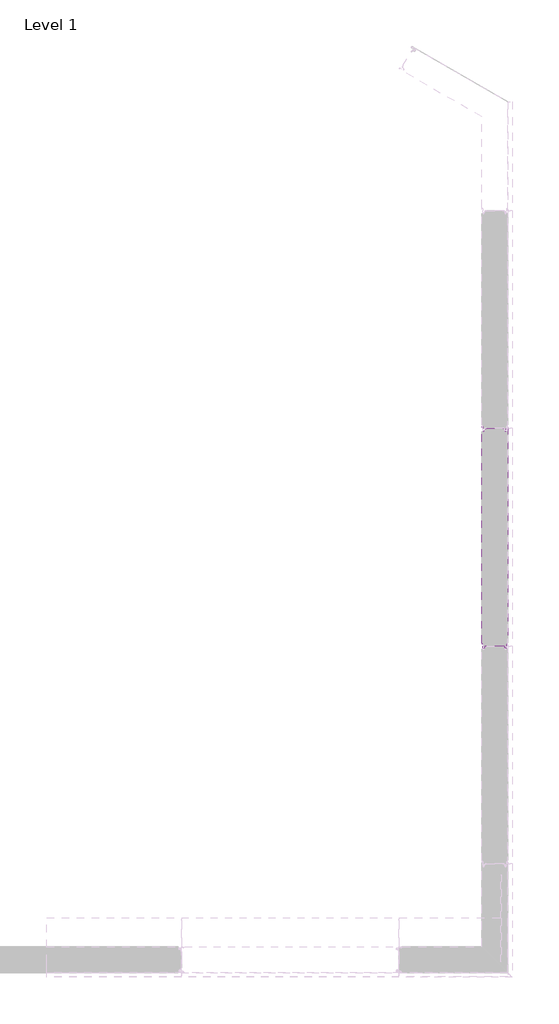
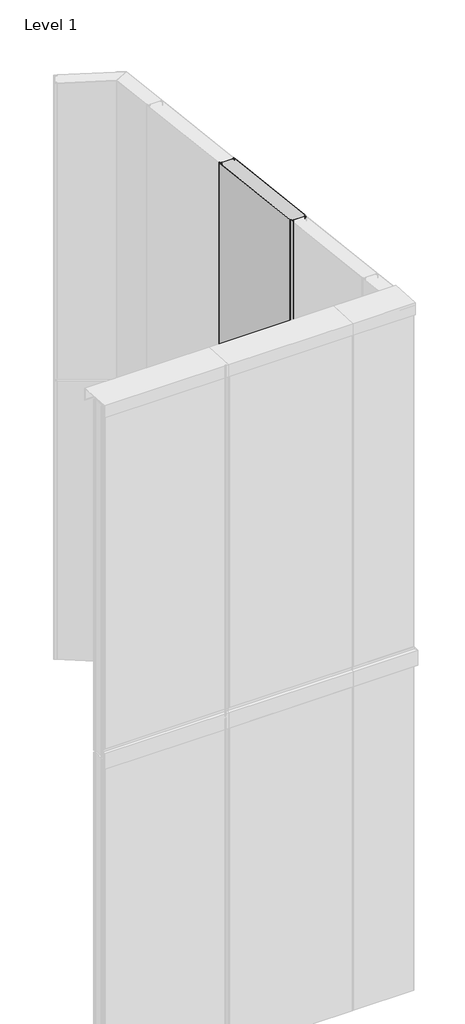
# One storey, part 9 of 16: 1 plate.
"""IFC4 building model written with IfcOpenShell, lengths in millimetres."""

from ifc_helpers import new_model, si_unit, frame, origin, place, context, project, spatial, polyline, circle_curve, ellipse_curve, element, save
from ifc_brep_helpers import plane_surface, cylinder_surface, revolved_surface, advanced_brep

model = new_model("IFC4")

# Units and contexts
model_context = context("Model", 3, world=origin())
ifc_project = project(units=[si_unit("LENGTHUNIT", "METRE", prefix="MILLI")], contexts=[model_context])

# Site, building, storey
site = spatial("IfcSite", under=ifc_project)
building = spatial("IfcBuilding", under=site)
storey = spatial("IfcBuildingStorey", under=building, Name="Level 1", Elevation=0.0)

# Plate
placement = place(None, origin())
element("IfcPlate", 1, ObjectType="TR_C_V_FTV_Panel : 120/RAL9006/RAL9002", at=placement, inside=storey, context=model_context, shape_type="AdvancedBrep", body=[
    advanced_brep(
    [(-11.0024729, 5469.8069107, 3000.0), (-6.5215976, 5466.0470099, 3000.0), (-5.7782846, 5461.8314726, 3000.0), (-0.9155057, 5462.2569107, 3000.0), (-0.9155057, 5477.0069107, 3000.0), (0.051042, 5479.340363, 3000.0), (4.4401293, 5483.7294503, 3000.0), (5.0844943, 5485.2850853, 3000.0), (5.0844943, 6474.6255398, 3000.0), (4.5133526, 6476.004398, 3000.0), (2.6476671, 6477.8700835, 3000.0), (0.6844943, 6477.0569107, 3000.0), (0.6844943, 6459.4569107, 3000.0), (-7.7509386, 6458.7189059, 3000.0), (-8.8177639, 6464.7691728, 3000.0), (-11.7229468, 6467.2069107, 3000.0), (-15.1155057, 6467.2069107, 3000.0), (-15.1155057, 6468.0069107, 3000.0), (-11.7229468, 6468.0069107, 3000.0), (-8.0299177, 6464.9080913, 3000.0), (-6.9630924, 6458.8578244, 3000.0), (-0.1155057, 6459.4569107, 3000.0), (-0.1155057, 6477.0569107, 3000.0), (3.2133526, 6478.4357689, 3000.0), (5.079038, 6476.5700835, 3000.0), (5.8844943, 6474.6255398, 3000.0), (5.8844943, 5485.2850853, 3000.0), (5.0058147, 5483.1637649, 3000.0), (0.6167274, 5478.7746776, 3000.0), (-0.1155057, 5477.0069107, 3000.0), (-0.1155057, 5462.2569107, 3000.0), (-6.5661308, 5461.6925541, 3000.0), (-7.3094438, 5465.9080913, 3000.0), (-11.0024729, 5469.0069107, 3000.0), (-15.1155057, 5469.0069107, 3000.0), (-15.1155057, 5469.8069107, 3000.0), (-15.1155057, 5469.8069107, 5819.5116281), (-11.0024729, 5469.8069107, 5819.5116281), (-15.1155057, 5469.0069107, 5819.6046513), (-11.0024729, 5469.0069107, 5819.6046513), (-7.3094438, 5465.9080913, 5819.9649792), (-6.5661308, 5461.6925541, 5820.4551579), (-0.1155057, 5462.2569107, 5820.3895351), (-0.1155057, 5477.0069107, 5818.6744188), (0.6167274, 5478.7746776, 5818.4688645), (5.0058147, 5483.1637649, 5817.9585055), (5.8844943, 5485.2850853, 5817.7118403), (5.8844943, 6474.6255398, 5702.6722526), (5.079038, 6476.5700835, 5702.4461429), (3.2133526, 6478.4357689, 5702.2292027), (-0.1155057, 6477.0569107, 5702.3895351), (-0.1155057, 6459.4569107, 5704.4360467), (-6.9630924, 6458.8578244, 5704.5057079), (-8.0299177, 6464.9080913, 5703.8021885), (-11.7229468, 6468.0069107, 5703.4418606), (-15.1155057, 6468.0069107, 5703.4418606), (-15.1155057, 6467.2069107, 5703.5348839), (-11.7229468, 6467.2069107, 5703.5348839), (-8.8177639, 6464.7691728, 5703.8183418), (-7.7509386, 6458.7189059, 5704.5218612), (0.6844943, 6459.4569107, 5704.4360467), (0.6844943, 6477.0569107, 5702.3895351), (2.6476671, 6477.8700835, 5702.2949801), (4.5133526, 6476.004398, 5702.5119202), (5.0844943, 6474.6255398, 5702.6722526), (5.0844943, 5485.2850853, 5817.7118403), (4.4401293, 5483.7294503, 5817.8927281), (0.051042, 5479.340363, 5818.4030871), (-0.9155057, 5477.0069107, 5818.6744188), (-0.9155057, 5462.2569107, 5820.3895351), (-5.7782846, 5461.8314726, 5820.4390046), (-6.5215976, 5466.0470099, 5819.9488258)],
    [
        (0, 1, circle_curve(frame((-11.0024729, 5465.2569107, 3000.0), z_axis=(0.0, 0.0, -1.0), x_axis=(0.0, -1.0, 0.0)), 4.55)),
        (1, 2),
        (2, 3, circle_curve(frame((-3.3655057, 5462.2569107, 3000.0), z_axis=(0.0, 0.0, 1.0), x_axis=(0.0, -1.0, 0.0)), 2.45)),
        (3, 4),
        (4, 5, circle_curve(frame((2.3844943, 5477.0069107, 3000.0), z_axis=(0.0, 0.0, -1.0), x_axis=(0.0, -1.0, 0.0)), 3.3)),
        (5, 6),
        (6, 7, circle_curve(frame((2.8844943, 5485.2850853, 3000.0), z_axis=(0.0, 0.0, 1.0), x_axis=(0.0, -1.0, 0.0)), 2.2)),
        (7, 8),
        (8, 9, circle_curve(frame((3.1344943, 6474.6255398, 3000.0), z_axis=(0.0, 0.0, 1.0), x_axis=(0.0, -1.0, 0.0)), 1.95)),
        (9, 10),
        (10, 11, circle_curve(frame((1.8344943, 6477.0569107, 3000.0), z_axis=(0.0, 0.0, 1.0), x_axis=(0.0, -1.0, 0.0)), 1.15)),
        (11, 12),
        (12, 13, circle_curve(frame((-3.5655057, 6459.4569107, 3000.0), z_axis=(0.0, 0.0, -1.0), x_axis=(0.0, -1.0, 0.0)), 4.25)),
        (13, 14),
        (14, 15, circle_curve(frame((-11.7229468, 6464.2569107, 3000.0), z_axis=(0.0, 0.0, 1.0), x_axis=(0.0, -1.0, 0.0)), 2.95)),
        (15, 16),
        (16, 17),
        (17, 18),
        (18, 19, circle_curve(frame((-11.7229468, 6464.2569107, 3000.0), z_axis=(0.0, 0.0, -1.0), x_axis=(0.0, -1.0, 0.0)), 3.75)),
        (19, 20),
        (20, 21, circle_curve(frame((-3.5655057, 6459.4569107, 3000.0), z_axis=(0.0, 0.0, 1.0), x_axis=(0.0, -1.0, 0.0)), 3.45)),
        (21, 22),
        (22, 23, circle_curve(frame((1.8344943, 6477.0569107, 3000.0), z_axis=(0.0, 0.0, -1.0), x_axis=(0.0, -1.0, 0.0)), 1.95)),
        (23, 24),
        (24, 25, circle_curve(frame((3.1344943, 6474.6255398, 3000.0), z_axis=(0.0, 0.0, -1.0), x_axis=(0.0, -1.0, 0.0)), 2.75)),
        (25, 26),
        (26, 27, circle_curve(frame((2.8844943, 5485.2850853, 3000.0), z_axis=(0.0, 0.0, -1.0), x_axis=(0.0, -1.0, 0.0)), 3.0)),
        (27, 28),
        (28, 29, circle_curve(frame((2.3844943, 5477.0069107, 3000.0), z_axis=(0.0, 0.0, 1.0), x_axis=(0.0, -1.0, 0.0)), 2.5)),
        (29, 30),
        (30, 31, circle_curve(frame((-3.3655057, 5462.2569107, 3000.0), z_axis=(0.0, 0.0, -1.0), x_axis=(0.0, -1.0, 0.0)), 3.25)),
        (31, 32),
        (32, 33, circle_curve(frame((-11.0024729, 5465.2569107, 3000.0), z_axis=(0.0, 0.0, 1.0), x_axis=(0.0, -1.0, 0.0)), 3.75)),
        (33, 34),
        (34, 35),
        (35, 0),
        (35, 36),
        (36, 37),
        (37, 0),
        (34, 38),
        (38, 36),
        (33, 39),
        (39, 38),
        (32, 40),
        (40, 39, ellipse_curve(frame((-11.0024729, 5465.2569107, 5820.0406978), z_axis=(0.0, 0.1155008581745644, 0.9933073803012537), x_axis=(0.0, 0.9933073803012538, -0.11550085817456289)), 3.7752664, 3.75)),
        (31, 41),
        (41, 40),
        (30, 42),
        (42, 41, ellipse_curve(frame((-3.3655057, 5462.2569107, 5820.3895351), z_axis=(0.0, -0.1155008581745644, -0.9933073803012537), x_axis=(0.0, -0.9933073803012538, 0.11550085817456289)), 3.2718976, 3.25)),
        (29, 43),
        (43, 42),
        (28, 44),
        (44, 43, ellipse_curve(frame((2.3844943, 5477.0069107, 5818.6744188), z_axis=(0.0, 0.1155008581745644, 0.9933073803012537), x_axis=(0.0, 0.9933073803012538, -0.11550085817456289)), 2.5168443, 2.5)),
        (27, 45),
        (45, 44),
        (26, 46),
        (46, 45, ellipse_curve(frame((2.8844943, 5485.2850853, 5817.7118403), z_axis=(0.0, -0.1155008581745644, -0.9933073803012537), x_axis=(0.0, -0.9933073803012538, 0.11550085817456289)), 3.0202131, 3.0)),
        (25, 47),
        (47, 46),
        (24, 48),
        (48, 47, ellipse_curve(frame((3.1344943, 6474.6255398, 5702.6722526), z_axis=(0.0, -0.1155008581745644, -0.9933073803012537), x_axis=(0.0, -0.9933073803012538, 0.11550085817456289)), 2.7685287, 2.75)),
        (23, 49),
        (49, 48),
        (22, 50),
        (50, 49, ellipse_curve(frame((1.8344943, 6477.0569107, 5702.3895351), z_axis=(0.0, -0.1155008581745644, -0.9933073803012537), x_axis=(0.0, -0.9933073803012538, 0.11550085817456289)), 1.9631385, 1.95)),
        (21, 51),
        (51, 50),
        (20, 52),
        (52, 51, ellipse_curve(frame((-3.5655057, 6459.4569107, 5704.4360467), z_axis=(0.0, 0.1155008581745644, 0.9933073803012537), x_axis=(0.0, 0.9933073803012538, -0.11550085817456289)), 3.4732451, 3.45)),
        (19, 53),
        (53, 52),
        (18, 54),
        (54, 53, ellipse_curve(frame((-11.7229468, 6464.2569107, 5703.8779071), z_axis=(0.0, -0.1155008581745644, -0.9933073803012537), x_axis=(0.0, -0.9933073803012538, 0.11550085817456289)), 3.7752664, 3.75)),
        (17, 55),
        (55, 54),
        (16, 56),
        (56, 55),
        (15, 57),
        (57, 56),
        (14, 58),
        (58, 57, ellipse_curve(frame((-11.7229468, 6464.2569107, 5703.8779071), z_axis=(0.0, 0.1155008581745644, 0.9933073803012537), x_axis=(0.0, 0.9933073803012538, -0.11550085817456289)), 2.9698763, 2.95)),
        (13, 59),
        (59, 58),
        (12, 60),
        (60, 59, ellipse_curve(frame((-3.5655057, 6459.4569107, 5704.4360467), z_axis=(0.0, -0.1155008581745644, -0.9933073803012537), x_axis=(0.0, -0.9933073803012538, 0.11550085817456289)), 4.2786353, 4.25)),
        (11, 61),
        (61, 60),
        (10, 62),
        (62, 61, ellipse_curve(frame((1.8344943, 6477.0569107, 5702.3895351), z_axis=(0.0, 0.1155008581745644, 0.9933073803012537), x_axis=(0.0, 0.9933073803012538, -0.11550085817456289)), 1.1577484, 1.15)),
        (9, 63),
        (63, 62),
        (8, 64),
        (64, 63, ellipse_curve(frame((3.1344943, 6474.6255398, 5702.6722526), z_axis=(0.0, 0.1155008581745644, 0.9933073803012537), x_axis=(0.0, 0.9933073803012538, -0.11550085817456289)), 1.9631385, 1.95)),
        (7, 65),
        (65, 64),
        (6, 66),
        (66, 65, ellipse_curve(frame((2.8844943, 5485.2850853, 5817.7118403), z_axis=(0.0, 0.1155008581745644, 0.9933073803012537), x_axis=(0.0, 0.9933073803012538, -0.11550085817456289)), 2.214823, 2.2)),
        (5, 67),
        (67, 66),
        (4, 68),
        (68, 67, ellipse_curve(frame((2.3844943, 5477.0069107, 5818.6744188), z_axis=(0.0, -0.1155008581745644, -0.9933073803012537), x_axis=(0.0, -0.9933073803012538, 0.11550085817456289)), 3.3222345, 3.3)),
        (3, 69),
        (69, 68),
        (2, 70),
        (70, 69, ellipse_curve(frame((-3.3655057, 5462.2569107, 5820.3895351), z_axis=(0.0, 0.1155008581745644, 0.9933073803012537), x_axis=(0.0, 0.9933073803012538, -0.11550085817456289)), 2.4665074, 2.45)),
        (1, 71),
        (71, 70),
        (37, 71, ellipse_curve(frame((-11.0024729, 5465.2569107, 5820.0406978), z_axis=(0.0, -0.1155008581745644, -0.9933073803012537), x_axis=(0.0, -0.9933073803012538, 0.11550085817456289)), 4.5806566, 4.55)),
    ],
    [
        plane_surface(frame((-15.1155057, 5469.8069107, 3000.0), z_axis=(0.0, 0.0, -1.0), x_axis=(1.0, 0.0, 0.0))),
        plane_surface(frame((-11.0024729, 5469.8069107, 5980.0), z_axis=(0.0, 1.0, 0.0), x_axis=(0.0, 0.0, -1.0))),
        plane_surface(frame((-15.1155057, 5469.8069107, 5980.0), z_axis=(-1.0, 0.0, 0.0), x_axis=(0.0, 0.0, -1.0))),
        plane_surface(frame((-15.1155057, 5469.0069107, 5980.0), z_axis=(0.0, -1.0, 0.0), x_axis=(0.0, 0.0, -1.0))),
        revolved_surface(polyline([(-11.0024729, 5461.5069107, 3000.0), (-11.0024729, 5461.5069107, 5820.476744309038)]), (-11.0024729, 5465.2569107, 3000.0), (0.0, 0.0, -1.0)),
        plane_surface(frame((-7.3094438, 5465.9080913, 5980.0), z_axis=(-0.9848077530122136, -0.17364817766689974, 0.0), x_axis=(0.0, 0.0, -1.0))),
        cylinder_surface(frame((-3.3655057, 5462.2569107, 3000.0), z_axis=(0.0, 0.0, 1.0), x_axis=(0.0, -1.0, 0.0)), 3.25),
        plane_surface(frame((-0.1155057, 5462.2569107, 5980.0), z_axis=(1.0, 0.0, 0.0), x_axis=(0.0, 0.0, -1.0))),
        revolved_surface(polyline([(2.3844943, 5474.5069107, 3000.0), (2.3844943, 5474.5069107, 5818.965116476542)]), (2.3844943, 5477.0069107, 3000.0), (0.0, 0.0, -1.0)),
        plane_surface(frame((0.6167274, 5478.7746776, 5980.0), z_axis=(0.7071067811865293, -0.7071067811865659, 0.0), x_axis=(0.0, 0.0, -1.0))),
        cylinder_surface(frame((2.8844943, 5485.2850853, 3000.0), z_axis=(0.0, 0.0, 1.0), x_axis=(0.0, -1.0, 0.0)), 3.0),
        plane_surface(frame((5.8844943, 5485.2850853, 5980.0), z_axis=(1.0, 0.0, 0.0), x_axis=(0.0, 0.0, -1.0))),
        cylinder_surface(frame((3.1344943, 6474.6255398, 3000.0), z_axis=(0.0, 0.0, 1.0), x_axis=(0.0, -1.0, 0.0)), 2.75),
        plane_surface(frame((5.079038, 6476.5700835, 5980.0), z_axis=(0.7071067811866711, 0.707106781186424, 0.0), x_axis=(0.0, 0.0, -1.0))),
        cylinder_surface(frame((1.8344943, 6477.0569107, 3000.0), z_axis=(0.0, 0.0, 1.0), x_axis=(0.0, -1.0, 0.0)), 1.95),
        plane_surface(frame((-0.1155057, 6477.0569107, 5980.0), z_axis=(-1.0, 0.0, 0.0), x_axis=(0.0, 0.0, -1.0))),
        revolved_surface(polyline([(-3.5655057, 6456.0069107, 3000.0), (-3.5655057, 6456.0069107, 5704.8372094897)]), (-3.5655057, 6459.4569107, 3000.0), (0.0, 0.0, -1.0)),
        plane_surface(frame((-6.9630924, 6458.8578244, 5980.0), z_axis=(0.9848077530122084, 0.17364817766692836, 0.0), x_axis=(0.0, 0.0, -1.0))),
        cylinder_surface(frame((-11.7229468, 6464.2569107, 3000.0), z_axis=(0.0, 0.0, 1.0), x_axis=(0.0, -1.0, 0.0)), 3.75),
        plane_surface(frame((-11.7229468, 6468.0069107, 5980.0), z_axis=(0.0, 1.0, 0.0), x_axis=(0.0, 0.0, -1.0))),
        plane_surface(frame((-15.1155057, 6468.0069107, 5980.0), z_axis=(-1.0, 0.0, 0.0), x_axis=(0.0, 0.0, -1.0))),
        plane_surface(frame((-15.1155057, 6467.2069107, 5980.0), z_axis=(0.0, -1.0, 0.0), x_axis=(0.0, 0.0, -1.0))),
        revolved_surface(polyline([(-11.7229468, 6461.3069107, 3000.0), (-11.7229468, 6461.3069107, 5704.220930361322)]), (-11.7229468, 6464.2569107, 3000.0), (0.0, 0.0, -1.0)),
        plane_surface(frame((-8.8177639, 6464.7691728, 5980.0), z_axis=(-0.9848077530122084, -0.17364817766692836, 0.0), x_axis=(0.0, 0.0, -1.0))),
        cylinder_surface(frame((-3.5655057, 6459.4569107, 3000.0), z_axis=(0.0, 0.0, 1.0), x_axis=(0.0, -1.0, 0.0)), 4.25),
        plane_surface(frame((0.6844943, 6459.4569107, 5980.0), z_axis=(1.0, 0.0, 0.0), x_axis=(0.0, 0.0, -1.0))),
        revolved_surface(polyline([(1.8344943, 6475.9069107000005, 3000.0), (1.8344943, 6475.9069107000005, 5702.52325603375)]), (1.8344943, 6477.0569107, 3000.0), (0.0, 0.0, -1.0)),
        plane_surface(frame((2.6476671, 6477.8700835, 5980.0), z_axis=(-0.7071067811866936, -0.7071067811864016, 0.0), x_axis=(0.0, 0.0, -1.0))),
        revolved_surface(polyline([(3.1344943, 6472.6755398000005, 3000.0), (3.1344943, 6472.6755398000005, 5702.898996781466)]), (3.1344943, 6474.6255398, 3000.0), (0.0, 0.0, -1.0)),
        plane_surface(frame((5.0844943, 6474.6255398, 5980.0), z_axis=(-1.0, 0.0, 0.0), x_axis=(0.0, 0.0, -1.0))),
        revolved_surface(polyline([(2.8844943, 5483.0850853, 3000.0), (2.8844943, 5483.0850853, 5817.967654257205)]), (2.8844943, 5485.2850853, 3000.0), (0.0, 0.0, -1.0)),
        plane_surface(frame((4.4401293, 5483.7294503, 5980.0), z_axis=(-0.7071067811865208, 0.7071067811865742, 0.0), x_axis=(0.0, 0.0, -1.0))),
        cylinder_surface(frame((2.3844943, 5477.0069107, 3000.0), z_axis=(0.0, 0.0, 1.0), x_axis=(0.0, -1.0, 0.0)), 3.3),
        plane_surface(frame((-0.9155057, 5477.0069107, 5980.0), z_axis=(-1.0, 0.0, 0.0), x_axis=(0.0, 0.0, -1.0))),
        revolved_surface(polyline([(-3.3655057, 5459.8069107, 3000.0), (-3.3655057, 5459.8069107, 5820.674418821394)]), (-3.3655057, 5462.2569107, 3000.0), (0.0, 0.0, -1.0)),
        plane_surface(frame((-5.7782846, 5461.8314726, 5980.0), z_axis=(0.9848077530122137, 0.17364817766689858, 0.0), x_axis=(0.0, 0.0, -1.0))),
        cylinder_surface(frame((-11.0024729, 5465.2569107, 3000.0), z_axis=(0.0, 0.0, 1.0), x_axis=(0.0, -1.0, 0.0)), 4.55),
        plane_surface(frame((5.8844943, 6239.6069121, 5730.0), z_axis=(0.0, 0.1155008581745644, 0.9933073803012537), x_axis=(0.0, -0.9933073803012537, 0.1155008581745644))),
    ],
    [
        (0, [[1, 2, 3, 4, 5, 6, 7, 8, 9, 10, 11, 12, 13, 14, 15, 16, 17, 18, 19, 20, 21, 22, 23, 24, 25, 26, 27, 28, 29, 30, 31, 32, 33, 34, 35, 36]]),
        (1, [[-36, 37, 38, 39]]),
        (2, [[-35, 40, 41, -37]]),
        (3, [[-34, 42, 43, -40]]),
        (4, [[-33, 44, 45, -42]]),
        (5, [[-32, 46, 47, -44]]),
        (6, [[-31, 48, 49, -46]]),
        (7, [[-30, 50, 51, -48]]),
        (8, [[-29, 52, 53, -50]]),
        (9, [[-28, 54, 55, -52]]),
        (10, [[-27, 56, 57, -54]]),
        (11, [[-26, 58, 59, -56]]),
        (12, [[-25, 60, 61, -58]]),
        (13, [[-24, 62, 63, -60]]),
        (14, [[-23, 64, 65, -62]]),
        (15, [[-22, 66, 67, -64]]),
        (16, [[-21, 68, 69, -66]]),
        (17, [[-20, 70, 71, -68]]),
        (18, [[-19, 72, 73, -70]]),
        (19, [[-18, 74, 75, -72]]),
        (20, [[-17, 76, 77, -74]]),
        (21, [[-16, 78, 79, -76]]),
        (22, [[-15, 80, 81, -78]]),
        (23, [[-14, 82, 83, -80]]),
        (24, [[-13, 84, 85, -82]]),
        (25, [[-12, 86, 87, -84]]),
        (26, [[-11, 88, 89, -86]]),
        (27, [[-10, 90, 91, -88]]),
        (28, [[-9, 92, 93, -90]]),
        (29, [[-8, 94, 95, -92]]),
        (30, [[-7, 96, 97, -94]]),
        (31, [[-6, 98, 99, -96]]),
        (32, [[-5, 100, 101, -98]]),
        (33, [[-4, 102, 103, -100]]),
        (34, [[-3, 104, 105, -102]]),
        (35, [[-2, 106, 107, -104]]),
        (36, [[-1, -39, 108, -106]]),
        (37, [[-38, -41, -43, -45, -47, -49, -51, -53, -55, -57, -59, -61, -63, -65, -67, -69, -71, -73, -75, -77, -79, -81, -83, -85, -87, -89, -91, -93, -95, -97, -99, -101, -103, -105, -107, -108]]),
    ],
),
    advanced_brep(
    [(-17.8155057, 6469.6069107, 3000.0), (-17.8155057, 6467.2069107, 3000.0), (-11.7229468, 6467.2069107, 3000.0), (-8.8177639, 6464.7691728, 3000.0), (-7.7509386, 6458.7189059, 3000.0), (-3.5655057, 6455.2069107, 3000.0), (5.0844943, 6455.2069107, 3000.0), (5.0844943, 5485.2850853, 3000.0), (4.4401293, 5483.7294503, 3000.0), (0.051042, 5479.340363, 3000.0), (-0.9155057, 5477.0069107, 3000.0), (-0.9155057, 5469.6069118, 3000.0), (-107.3155057, 5469.6069118, 3000.0), (-107.3155057, 5477.0069107, 3000.0), (-108.2820533, 5479.340363, 3000.0), (-112.6711406, 5483.7294503, 3000.0), (-113.3155057, 5485.2850853, 3000.0), (-113.3155057, 6455.2069107, 3000.0), (-104.6655057, 6455.2069107, 3000.0), (-100.4800727, 6458.7189059, 3000.0), (-99.4132474, 6464.7691728, 3000.0), (-96.5080645, 6467.2069107, 3000.0), (-90.4155057, 6467.2069107, 3000.0), (-90.4155057, 6469.6069107, 3000.0), (-90.4155057, 6469.6069107, 5703.2558141), (-17.8155057, 6469.6069107, 5703.2558141), (-90.4155057, 6467.2069107, 5703.5348839), (-96.5080645, 6467.2069107, 5703.5348839), (-99.4132474, 6464.7691728, 5703.8183418), (-100.4800727, 6458.7189059, 5704.5218612), (-104.6655057, 6455.2069107, 5704.9302327), (-113.3155057, 6455.2069107, 5704.9302327), (-113.3155057, 5485.2850853, 5817.7118403), (-112.6711406, 5483.7294503, 5817.8927281), (-108.2820533, 5479.340363, 5818.4030871), (-107.3155057, 5477.0069107, 5818.6744188), (-107.3155057, 5469.6069118, 5819.5348838), (-0.9155057, 5469.6069118, 5819.5348838), (-0.9155057, 5477.0069107, 5818.6744188), (0.051042, 5479.340363, 5818.4030871), (4.4401293, 5483.7294503, 5817.8927281), (5.0844943, 5485.2850853, 5817.7118403), (5.0844943, 6455.2069107, 5704.9302327), (-3.5655057, 6455.2069107, 5704.9302327), (-7.7509386, 6458.7189059, 5704.5218612), (-8.8177639, 6464.7691728, 5703.8183418), (-11.7229468, 6467.2069107, 5703.5348839), (-17.8155057, 6467.2069107, 5703.5348839)],
    [
        (0, 1),
        (1, 2),
        (2, 3, circle_curve(frame((-11.7229468, 6464.2569107, 3000.0), z_axis=(0.0, 0.0, -1.0), x_axis=(0.0, -1.0, 0.0)), 2.95)),
        (3, 4),
        (4, 5, circle_curve(frame((-3.5655057, 6459.4569107, 3000.0), z_axis=(0.0, 0.0, 1.0), x_axis=(0.0, -1.0, 0.0)), 4.25)),
        (5, 6),
        (6, 7),
        (7, 8, circle_curve(frame((2.8844943, 5485.2850853, 3000.0), z_axis=(0.0, 0.0, -1.0), x_axis=(0.0, -1.0, 0.0)), 2.2)),
        (8, 9),
        (9, 10, circle_curve(frame((2.3844943, 5477.0069107, 3000.0), z_axis=(0.0, 0.0, 1.0), x_axis=(0.0, -1.0, 0.0)), 3.3)),
        (10, 11),
        (11, 12),
        (12, 13),
        (13, 14, circle_curve(frame((-110.6155057, 5477.0069107, 3000.0), z_axis=(0.0, 0.0, 1.0), x_axis=(0.0, -1.0, 0.0)), 3.3)),
        (14, 15),
        (15, 16, circle_curve(frame((-111.1155057, 5485.2850853, 3000.0), z_axis=(0.0, 0.0, -1.0), x_axis=(0.0, -1.0, 0.0)), 2.2)),
        (16, 17),
        (17, 18),
        (18, 19, circle_curve(frame((-104.6655057, 6459.4569107, 3000.0), z_axis=(0.0, 0.0, 1.0), x_axis=(0.0, -1.0, 0.0)), 4.25)),
        (19, 20),
        (20, 21, circle_curve(frame((-96.5080645, 6464.2569107, 3000.0), z_axis=(0.0, 0.0, -1.0), x_axis=(0.0, -1.0, 0.0)), 2.95)),
        (21, 22),
        (22, 23),
        (23, 0),
        (23, 24),
        (24, 25),
        (25, 0),
        (22, 26),
        (26, 24),
        (21, 27),
        (27, 26),
        (20, 28),
        (28, 27, ellipse_curve(frame((-96.5080645, 6464.2569107, 5703.8779071), z_axis=(0.0, -0.1155008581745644, -0.9933073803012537), x_axis=(0.0, -0.9933073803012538, 0.11550085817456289)), 2.9698763, 2.95)),
        (19, 29),
        (29, 28),
        (18, 30),
        (30, 29, ellipse_curve(frame((-104.6655057, 6459.4569107, 5704.4360467), z_axis=(0.0, 0.1155008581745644, 0.9933073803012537), x_axis=(0.0, 0.9933073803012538, -0.11550085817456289)), 4.2786353, 4.25)),
        (17, 31),
        (31, 30),
        (16, 32),
        (32, 31),
        (15, 33),
        (33, 32, ellipse_curve(frame((-111.1155057, 5485.2850853, 5817.7118403), z_axis=(0.0, -0.1155008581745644, -0.9933073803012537), x_axis=(0.0, -0.9933073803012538, 0.11550085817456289)), 2.214823, 2.2)),
        (14, 34),
        (34, 33),
        (13, 35),
        (35, 34, ellipse_curve(frame((-110.6155057, 5477.0069107, 5818.6744188), z_axis=(0.0, 0.1155008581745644, 0.9933073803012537), x_axis=(0.0, 0.9933073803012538, -0.11550085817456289)), 3.3222345, 3.3)),
        (12, 36),
        (36, 35),
        (11, 37),
        (37, 36),
        (10, 38),
        (38, 37),
        (9, 39),
        (39, 38, ellipse_curve(frame((2.3844943, 5477.0069107, 5818.6744188), z_axis=(0.0, 0.1155008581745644, 0.9933073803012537), x_axis=(0.0, 0.9933073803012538, -0.11550085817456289)), 3.3222345, 3.3)),
        (8, 40),
        (40, 39),
        (7, 41),
        (41, 40, ellipse_curve(frame((2.8844943, 5485.2850853, 5817.7118403), z_axis=(0.0, -0.1155008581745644, -0.9933073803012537), x_axis=(0.0, -0.9933073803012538, 0.11550085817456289)), 2.214823, 2.2)),
        (6, 42),
        (42, 41),
        (5, 43),
        (43, 42),
        (4, 44),
        (44, 43, ellipse_curve(frame((-3.5655057, 6459.4569107, 5704.4360467), z_axis=(0.0, 0.1155008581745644, 0.9933073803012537), x_axis=(0.0, 0.9933073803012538, -0.11550085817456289)), 4.2786353, 4.25)),
        (3, 45),
        (45, 44),
        (2, 46),
        (46, 45, ellipse_curve(frame((-11.7229468, 6464.2569107, 5703.8779071), z_axis=(0.0, -0.1155008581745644, -0.9933073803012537), x_axis=(0.0, -0.9933073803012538, 0.11550085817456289)), 2.9698763, 2.95)),
        (1, 47),
        (47, 46),
        (25, 47),
    ],
    [
        plane_surface(frame((-90.4155057, 6469.6069107, 3000.0), z_axis=(0.0, 0.0, -1.0), x_axis=(1.0, 0.0, 0.0))),
        plane_surface(frame((-17.8155057, 6469.6069107, 5980.0), z_axis=(0.0, 1.0, 0.0), x_axis=(0.0, 0.0, -1.0))),
        plane_surface(frame((-90.4155057, 6469.6069107, 5980.0), z_axis=(-1.0, 0.0, 0.0), x_axis=(0.0, 0.0, -1.0))),
        plane_surface(frame((-90.4155057, 6467.2069107, 5980.0), z_axis=(0.0, 1.0, 0.0), x_axis=(0.0, 0.0, -1.0))),
        cylinder_surface(frame((-96.5080645, 6464.2569107, 3000.0), z_axis=(0.0, 0.0, 1.0), x_axis=(0.0, -1.0, 0.0)), 2.95),
        plane_surface(frame((-99.4132474, 6464.7691728, 5980.0), z_axis=(-0.9848077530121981, 0.17364817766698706, 0.0), x_axis=(0.0, 0.0, -1.0))),
        revolved_surface(polyline([(-104.6655057, 6455.2069107, 3000.0), (-104.6655057, 6455.2069107, 5704.930232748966)]), (-104.6655057, 6459.4569107, 3000.0), (0.0, 0.0, -1.0)),
        plane_surface(frame((-104.6655057, 6455.2069107, 5980.0), z_axis=(0.0, 1.0, 0.0), x_axis=(0.0, 0.0, -1.0))),
        plane_surface(frame((-113.3155057, 6455.2069107, 5980.0), z_axis=(-1.0, 0.0, 0.0), x_axis=(0.0, 0.0, -1.0))),
        cylinder_surface(frame((-111.1155057, 5485.2850853, 3000.0), z_axis=(0.0, 0.0, 1.0), x_axis=(0.0, -1.0, 0.0)), 2.2),
        plane_surface(frame((-112.6711406, 5483.7294503, 5980.0), z_axis=(-0.7071067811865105, -0.7071067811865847, 0.0), x_axis=(0.0, 0.0, -1.0))),
        revolved_surface(polyline([(-110.6155057, 5473.7069107, 3000.0), (-110.6155057, 5473.7069107, 5819.058139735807)]), (-110.6155057, 5477.0069107, 3000.0), (0.0, 0.0, -1.0)),
        plane_surface(frame((-107.3155057, 5477.0069107, 5980.0), z_axis=(-1.0, 0.0, 0.0), x_axis=(0.0, 0.0, -1.0))),
        plane_surface(frame((-107.3155057, 5469.6069118, 5980.0), z_axis=(0.0, -1.0, 0.0), x_axis=(0.0, 0.0, -1.0))),
        plane_surface(frame((-0.9155057, 5469.6069118, 5980.0), z_axis=(1.0, 0.0, 0.0), x_axis=(0.0, 0.0, -1.0))),
        revolved_surface(polyline([(2.3844943, 5473.7069107, 3000.0), (2.3844943, 5473.7069107, 5819.058139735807)]), (2.3844943, 5477.0069107, 3000.0), (0.0, 0.0, -1.0)),
        plane_surface(frame((0.051042, 5479.340363, 5980.0), z_axis=(0.7071067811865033, -0.7071067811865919, 0.0), x_axis=(0.0, 0.0, -1.0))),
        cylinder_surface(frame((2.8844943, 5485.2850853, 3000.0), z_axis=(0.0, 0.0, 1.0), x_axis=(0.0, -1.0, 0.0)), 2.2),
        plane_surface(frame((5.0844943, 5485.2850853, 5980.0), z_axis=(1.0, 0.0, 0.0), x_axis=(0.0, 0.0, -1.0))),
        plane_surface(frame((5.0844943, 6455.2069107, 5980.0), z_axis=(0.0, 1.0, 0.0), x_axis=(0.0, 0.0, -1.0))),
        revolved_surface(polyline([(-3.5655057, 6455.2069107, 3000.0), (-3.5655057, 6455.2069107, 5704.930232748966)]), (-3.5655057, 6459.4569107, 3000.0), (0.0, 0.0, -1.0)),
        plane_surface(frame((-7.7509386, 6458.7189059, 5980.0), z_axis=(0.9848077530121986, 0.17364817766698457, 0.0), x_axis=(0.0, 0.0, -1.0))),
        cylinder_surface(frame((-11.7229468, 6464.2569107, 3000.0), z_axis=(0.0, 0.0, 1.0), x_axis=(0.0, -1.0, 0.0)), 2.95),
        plane_surface(frame((-11.7229468, 6467.2069107, 5980.0), z_axis=(0.0, 1.0, 0.0), x_axis=(0.0, 0.0, -1.0))),
        plane_surface(frame((-17.8155057, 6467.2069107, 5980.0), z_axis=(1.0, 0.0, 0.0), x_axis=(0.0, 0.0, -1.0))),
        plane_surface(frame((5.8844943, 6239.6069121, 5730.0), z_axis=(0.0, 0.1155008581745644, 0.9933073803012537), x_axis=(0.0, -0.9933073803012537, 0.1155008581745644))),
    ],
    [
        (0, [[1, 2, 3, 4, 5, 6, 7, 8, 9, 10, 11, 12, 13, 14, 15, 16, 17, 18, 19, 20, 21, 22, 23, 24]]),
        (1, [[-24, 25, 26, 27]]),
        (2, [[-23, 28, 29, -25]]),
        (3, [[-22, 30, 31, -28]]),
        (4, [[-21, 32, 33, -30]]),
        (5, [[-20, 34, 35, -32]]),
        (6, [[-19, 36, 37, -34]]),
        (7, [[-18, 38, 39, -36]]),
        (8, [[-17, 40, 41, -38]]),
        (9, [[-16, 42, 43, -40]]),
        (10, [[-15, 44, 45, -42]]),
        (11, [[-14, 46, 47, -44]]),
        (12, [[-13, 48, 49, -46]]),
        (13, [[-12, 50, 51, -48]]),
        (14, [[-11, 52, 53, -50]]),
        (15, [[-10, 54, 55, -52]]),
        (16, [[-9, 56, 57, -54]]),
        (17, [[-8, 58, 59, -56]]),
        (18, [[-7, 60, 61, -58]]),
        (19, [[-6, 62, 63, -60]]),
        (20, [[-5, 64, 65, -62]]),
        (21, [[-4, 66, 67, -64]]),
        (22, [[-3, 68, 69, -66]]),
        (23, [[-2, 70, 71, -68]]),
        (24, [[-1, -27, 72, -70]]),
        (25, [[-26, -29, -31, -33, -35, -37, -39, -41, -43, -45, -47, -49, -51, -53, -55, -57, -59, -61, -63, -65, -67, -69, -71, -72]]),
    ],
),
    advanced_brep(
    [(-97.2285384, 5469.8069107, 3000.0), (-93.1155057, 5469.8069107, 3000.0), (-93.1155057, 5469.0069107, 3000.0), (-97.2285384, 5469.0069107, 3000.0), (-100.9215675, 5465.9080913, 3000.0), (-101.6648805, 5461.6925541, 3000.0), (-108.1155057, 5462.2569107, 3000.0), (-108.1155057, 5477.0069107, 3000.0), (-108.8477387, 5478.7746776, 3000.0), (-113.236826, 5483.1637649, 3000.0), (-114.1155057, 5485.2850853, 3000.0), (-114.1155057, 6474.6255398, 3000.0), (-113.3100493, 6476.5700835, 3000.0), (-111.4443639, 6478.4357689, 3000.0), (-108.1155057, 6477.0569107, 3000.0), (-108.1155057, 6459.4569107, 3000.0), (-101.2679189, 6458.8578244, 3000.0), (-100.2010936, 6464.9080913, 3000.0), (-96.5080645, 6468.0069107, 3000.0), (-93.1155057, 6468.0069107, 3000.0), (-93.1155057, 6467.2069107, 3000.0), (-96.5080645, 6467.2069107, 3000.0), (-99.4132474, 6464.7691728, 3000.0), (-100.4800727, 6458.7189059, 3000.0), (-108.9155057, 6459.4569107, 3000.0), (-108.9155057, 6477.0569107, 3000.0), (-110.8786785, 6477.8700835, 3000.0), (-112.7443639, 6476.004398, 3000.0), (-113.3155057, 6474.6255398, 3000.0), (-113.3155057, 5485.2850853, 3000.0), (-112.6711406, 5483.7294503, 3000.0), (-108.2820533, 5479.340363, 3000.0), (-107.3155057, 5477.0069107, 3000.0), (-107.3155057, 5462.2569107, 3000.0), (-102.4527267, 5461.8314726, 3000.0), (-101.7094137, 5466.0470099, 3000.0), (-101.7094137, 5466.0470099, 5819.9488258), (-97.2285384, 5469.8069107, 5819.5116281), (-102.4527267, 5461.8314726, 5820.4390046), (-107.3155057, 5462.2569107, 5820.3895351), (-107.3155057, 5477.0069107, 5818.6744188), (-108.2820533, 5479.340363, 5818.4030871), (-112.6711406, 5483.7294503, 5817.8927281), (-113.3155057, 5485.2850853, 5817.7118403), (-113.3155057, 6474.6255398, 5702.6722526), (-112.7443639, 6476.004398, 5702.5119202), (-110.8786785, 6477.8700835, 5702.2949801), (-108.9155057, 6477.0569107, 5702.3895351), (-108.9155057, 6459.4569107, 5704.4360467), (-100.4800727, 6458.7189059, 5704.5218612), (-99.4132474, 6464.7691728, 5703.8183418), (-96.5080645, 6467.2069107, 5703.5348839), (-93.1155057, 6467.2069107, 5703.5348839), (-93.1155057, 6468.0069107, 5703.4418606), (-96.5080645, 6468.0069107, 5703.4418606), (-100.2010936, 6464.9080913, 5703.8021885), (-101.2679189, 6458.8578244, 5704.5057079), (-108.1155057, 6459.4569107, 5704.4360467), (-108.1155057, 6477.0569107, 5702.3895351), (-111.4443639, 6478.4357689, 5702.2292027), (-113.3100493, 6476.5700835, 5702.4461429), (-114.1155057, 6474.6255398, 5702.6722526), (-114.1155057, 5485.2850853, 5817.7118403), (-113.236826, 5483.1637649, 5817.9585055), (-108.8477387, 5478.7746776, 5818.4688645), (-108.1155057, 5477.0069107, 5818.6744188), (-108.1155057, 5462.2569107, 5820.3895351), (-101.6648805, 5461.6925541, 5820.4551579), (-100.9215675, 5465.9080913, 5819.9649792), (-97.2285384, 5469.0069107, 5819.6046513), (-93.1155057, 5469.0069107, 5819.6046513), (-93.1155057, 5469.8069107, 5819.5116281)],
    [
        (0, 1),
        (1, 2),
        (2, 3),
        (3, 4, circle_curve(frame((-97.2285384, 5465.2569107, 3000.0), z_axis=(0.0, 0.0, 1.0), x_axis=(0.0, -1.0, 0.0)), 3.75)),
        (4, 5),
        (5, 6, circle_curve(frame((-104.8655057, 5462.2569107, 3000.0), z_axis=(0.0, 0.0, -1.0), x_axis=(0.0, -1.0, 0.0)), 3.25)),
        (6, 7),
        (7, 8, circle_curve(frame((-110.6155057, 5477.0069107, 3000.0), z_axis=(0.0, 0.0, 1.0), x_axis=(0.0, -1.0, 0.0)), 2.5)),
        (8, 9),
        (9, 10, circle_curve(frame((-111.1155057, 5485.2850853, 3000.0), z_axis=(0.0, 0.0, -1.0), x_axis=(0.0, -1.0, 0.0)), 3.0)),
        (10, 11),
        (11, 12, circle_curve(frame((-111.3655057, 6474.6255398, 3000.0), z_axis=(0.0, 0.0, -1.0), x_axis=(0.0, -1.0, 0.0)), 2.75)),
        (12, 13),
        (13, 14, circle_curve(frame((-110.0655057, 6477.0569107, 3000.0), z_axis=(0.0, 0.0, -1.0), x_axis=(0.0, -1.0, 0.0)), 1.95)),
        (14, 15),
        (15, 16, circle_curve(frame((-104.6655057, 6459.4569107, 3000.0), z_axis=(0.0, 0.0, 1.0), x_axis=(0.0, -1.0, 0.0)), 3.45)),
        (16, 17),
        (17, 18, circle_curve(frame((-96.5080645, 6464.2569107, 3000.0), z_axis=(0.0, 0.0, -1.0), x_axis=(0.0, -1.0, 0.0)), 3.75)),
        (18, 19),
        (19, 20),
        (20, 21),
        (21, 22, circle_curve(frame((-96.5080645, 6464.2569107, 3000.0), z_axis=(0.0, 0.0, 1.0), x_axis=(0.0, -1.0, 0.0)), 2.95)),
        (22, 23),
        (23, 24, circle_curve(frame((-104.6655057, 6459.4569107, 3000.0), z_axis=(0.0, 0.0, -1.0), x_axis=(0.0, -1.0, 0.0)), 4.25)),
        (24, 25),
        (25, 26, circle_curve(frame((-110.0655057, 6477.0569107, 3000.0), z_axis=(0.0, 0.0, 1.0), x_axis=(0.0, -1.0, 0.0)), 1.15)),
        (26, 27),
        (27, 28, circle_curve(frame((-111.3655057, 6474.6255398, 3000.0), z_axis=(0.0, 0.0, 1.0), x_axis=(0.0, -1.0, 0.0)), 1.95)),
        (28, 29),
        (29, 30, circle_curve(frame((-111.1155057, 5485.2850853, 3000.0), z_axis=(0.0, 0.0, 1.0), x_axis=(0.0, -1.0, 0.0)), 2.2)),
        (30, 31),
        (31, 32, circle_curve(frame((-110.6155057, 5477.0069107, 3000.0), z_axis=(0.0, 0.0, -1.0), x_axis=(0.0, -1.0, 0.0)), 3.3)),
        (32, 33),
        (33, 34, circle_curve(frame((-104.8655057, 5462.2569107, 3000.0), z_axis=(0.0, 0.0, 1.0), x_axis=(0.0, -1.0, 0.0)), 2.45)),
        (34, 35),
        (35, 0, circle_curve(frame((-97.2285384, 5465.2569107, 3000.0), z_axis=(0.0, 0.0, -1.0), x_axis=(0.0, -1.0, 0.0)), 4.55)),
        (35, 36),
        (36, 37, ellipse_curve(frame((-97.2285384, 5465.2569107, 5820.0406978), z_axis=(0.0, -0.1155008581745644, -0.9933073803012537), x_axis=(0.0, -0.9933073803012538, 0.11550085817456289)), 4.5806566, 4.55)),
        (37, 0),
        (34, 38),
        (38, 36),
        (33, 39),
        (39, 38, ellipse_curve(frame((-104.8655057, 5462.2569107, 5820.3895351), z_axis=(0.0, 0.1155008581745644, 0.9933073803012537), x_axis=(0.0, 0.9933073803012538, -0.11550085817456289)), 2.4665074, 2.45)),
        (32, 40),
        (40, 39),
        (31, 41),
        (41, 40, ellipse_curve(frame((-110.6155057, 5477.0069107, 5818.6744188), z_axis=(0.0, -0.1155008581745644, -0.9933073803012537), x_axis=(0.0, -0.9933073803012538, 0.11550085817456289)), 3.3222345, 3.3)),
        (30, 42),
        (42, 41),
        (29, 43),
        (43, 42, ellipse_curve(frame((-111.1155057, 5485.2850853, 5817.7118403), z_axis=(0.0, 0.1155008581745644, 0.9933073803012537), x_axis=(0.0, 0.9933073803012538, -0.11550085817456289)), 2.214823, 2.2)),
        (28, 44),
        (44, 43),
        (27, 45),
        (45, 44, ellipse_curve(frame((-111.3655057, 6474.6255398, 5702.6722526), z_axis=(0.0, 0.1155008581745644, 0.9933073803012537), x_axis=(0.0, 0.9933073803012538, -0.11550085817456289)), 1.9631385, 1.95)),
        (26, 46),
        (46, 45),
        (25, 47),
        (47, 46, ellipse_curve(frame((-110.0655057, 6477.0569107, 5702.3895351), z_axis=(0.0, 0.1155008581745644, 0.9933073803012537), x_axis=(0.0, 0.9933073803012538, -0.11550085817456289)), 1.1577484, 1.15)),
        (24, 48),
        (48, 47),
        (23, 49),
        (49, 48, ellipse_curve(frame((-104.6655057, 6459.4569107, 5704.4360467), z_axis=(0.0, -0.1155008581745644, -0.9933073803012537), x_axis=(0.0, -0.9933073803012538, 0.11550085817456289)), 4.2786353, 4.25)),
        (22, 50),
        (50, 49),
        (21, 51),
        (51, 50, ellipse_curve(frame((-96.5080645, 6464.2569107, 5703.8779071), z_axis=(0.0, 0.1155008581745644, 0.9933073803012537), x_axis=(0.0, 0.9933073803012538, -0.11550085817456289)), 2.9698763, 2.95)),
        (20, 52),
        (52, 51),
        (19, 53),
        (53, 52),
        (18, 54),
        (54, 53),
        (17, 55),
        (55, 54, ellipse_curve(frame((-96.5080645, 6464.2569107, 5703.8779071), z_axis=(0.0, -0.1155008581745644, -0.9933073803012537), x_axis=(0.0, -0.9933073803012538, 0.11550085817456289)), 3.7752664, 3.75)),
        (16, 56),
        (56, 55),
        (15, 57),
        (57, 56, ellipse_curve(frame((-104.6655057, 6459.4569107, 5704.4360467), z_axis=(0.0, 0.1155008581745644, 0.9933073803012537), x_axis=(0.0, 0.9933073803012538, -0.11550085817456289)), 3.4732451, 3.45)),
        (14, 58),
        (58, 57),
        (13, 59),
        (59, 58, ellipse_curve(frame((-110.0655057, 6477.0569107, 5702.3895351), z_axis=(0.0, -0.1155008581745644, -0.9933073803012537), x_axis=(0.0, -0.9933073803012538, 0.11550085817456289)), 1.9631385, 1.95)),
        (12, 60),
        (60, 59),
        (11, 61),
        (61, 60, ellipse_curve(frame((-111.3655057, 6474.6255398, 5702.6722526), z_axis=(0.0, -0.1155008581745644, -0.9933073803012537), x_axis=(0.0, -0.9933073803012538, 0.11550085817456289)), 2.7685287, 2.75)),
        (10, 62),
        (62, 61),
        (9, 63),
        (63, 62, ellipse_curve(frame((-111.1155057, 5485.2850853, 5817.7118403), z_axis=(0.0, -0.1155008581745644, -0.9933073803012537), x_axis=(0.0, -0.9933073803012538, 0.11550085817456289)), 3.0202131, 3.0)),
        (8, 64),
        (64, 63),
        (7, 65),
        (65, 64, ellipse_curve(frame((-110.6155057, 5477.0069107, 5818.6744188), z_axis=(0.0, 0.1155008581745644, 0.9933073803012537), x_axis=(0.0, 0.9933073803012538, -0.11550085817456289)), 2.5168443, 2.5)),
        (6, 66),
        (66, 65),
        (5, 67),
        (67, 66, ellipse_curve(frame((-104.8655057, 5462.2569107, 5820.3895351), z_axis=(0.0, -0.1155008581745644, -0.9933073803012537), x_axis=(0.0, -0.9933073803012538, 0.11550085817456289)), 3.2718976, 3.25)),
        (4, 68),
        (68, 67),
        (3, 69),
        (69, 68, ellipse_curve(frame((-97.2285384, 5465.2569107, 5820.0406978), z_axis=(0.0, 0.1155008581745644, 0.9933073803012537), x_axis=(0.0, 0.9933073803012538, -0.11550085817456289)), 3.7752664, 3.75)),
        (2, 70),
        (70, 69),
        (1, 71),
        (71, 70),
        (37, 71),
    ],
    [
        plane_surface(frame((-97.2285384, 5460.7069107, 3000.0), z_axis=(0.0, 0.0, -1.0), x_axis=(-1.0, 0.0, 0.0))),
        cylinder_surface(frame((-97.2285384, 5465.2569107, 3000.0), z_axis=(0.0, 0.0, 1.0), x_axis=(0.0, -1.0, 0.0)), 4.55),
        plane_surface(frame((-101.7094137, 5466.0470099, 5980.0), z_axis=(-0.9848077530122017, 0.17364817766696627, 0.0), x_axis=(0.0, 0.0, -1.0))),
        revolved_surface(polyline([(-104.8655057, 5459.8069107, 3000.0), (-104.8655057, 5459.8069107, 5820.674418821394)]), (-104.8655057, 5462.2569107, 3000.0), (0.0, 0.0, -1.0)),
        plane_surface(frame((-107.3155057, 5462.2569107, 5980.0), z_axis=(1.0, 0.0, 0.0), x_axis=(0.0, 0.0, -1.0))),
        cylinder_surface(frame((-110.6155057, 5477.0069107, 3000.0), z_axis=(0.0, 0.0, 1.0), x_axis=(0.0, -1.0, 0.0)), 3.3),
        plane_surface(frame((-108.2820533, 5479.340363, 5980.0), z_axis=(0.7071067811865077, 0.7071067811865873, 0.0), x_axis=(0.0, 0.0, -1.0))),
        revolved_surface(polyline([(-111.1155057, 5483.0850853, 3000.0), (-111.1155057, 5483.0850853, 5817.967654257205)]), (-111.1155057, 5485.2850853, 3000.0), (0.0, 0.0, -1.0)),
        plane_surface(frame((-113.3155057, 5485.2850853, 5980.0), z_axis=(1.0, 0.0, 0.0), x_axis=(0.0, 0.0, -1.0))),
        revolved_surface(polyline([(-111.3655057, 6472.6755398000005, 3000.0), (-111.3655057, 6472.6755398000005, 5702.898996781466)]), (-111.3655057, 6474.6255398, 3000.0), (0.0, 0.0, -1.0)),
        plane_surface(frame((-112.7443639, 6476.004398, 5980.0), z_axis=(0.7071067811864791, -0.707106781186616, 0.0), x_axis=(0.0, 0.0, -1.0))),
        revolved_surface(polyline([(-110.0655057, 6475.9069107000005, 3000.0), (-110.0655057, 6475.9069107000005, 5702.52325603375)]), (-110.0655057, 6477.0569107, 3000.0), (0.0, 0.0, -1.0)),
        plane_surface(frame((-108.9155057, 6477.0569107, 5980.0), z_axis=(-1.0, 0.0, 0.0), x_axis=(0.0, 0.0, -1.0))),
        cylinder_surface(frame((-104.6655057, 6459.4569107, 3000.0), z_axis=(0.0, 0.0, 1.0), x_axis=(0.0, -1.0, 0.0)), 4.25),
        plane_surface(frame((-100.4800727, 6458.7189059, 5980.0), z_axis=(0.9848077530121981, -0.17364817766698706, 0.0), x_axis=(0.0, 0.0, -1.0))),
        revolved_surface(polyline([(-96.5080645, 6461.3069107, 3000.0), (-96.5080645, 6461.3069107, 5704.220930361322)]), (-96.5080645, 6464.2569107, 3000.0), (0.0, 0.0, -1.0)),
        plane_surface(frame((-96.5080645, 6467.2069107, 5980.0), z_axis=(0.0, -1.0, 0.0), x_axis=(0.0, 0.0, -1.0))),
        plane_surface(frame((-93.1155057, 6467.2069107, 5980.0), z_axis=(1.0, 0.0, 0.0), x_axis=(0.0, 0.0, -1.0))),
        plane_surface(frame((-93.1155057, 6468.0069107, 5980.0), z_axis=(0.0, 1.0, 0.0), x_axis=(0.0, 0.0, -1.0))),
        cylinder_surface(frame((-96.5080645, 6464.2569107, 3000.0), z_axis=(0.0, 0.0, 1.0), x_axis=(0.0, -1.0, 0.0)), 3.75),
        plane_surface(frame((-100.2010936, 6464.9080913, 5980.0), z_axis=(-0.9848077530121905, 0.1736481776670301, 0.0), x_axis=(0.0, 0.0, -1.0))),
        revolved_surface(polyline([(-104.6655057, 6456.0069107, 3000.0), (-104.6655057, 6456.0069107, 5704.8372094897)]), (-104.6655057, 6459.4569107, 3000.0), (0.0, 0.0, -1.0)),
        plane_surface(frame((-108.1155057, 6459.4569107, 5980.0), z_axis=(1.0, 0.0, 0.0), x_axis=(0.0, 0.0, -1.0))),
        cylinder_surface(frame((-110.0655057, 6477.0569107, 3000.0), z_axis=(0.0, 0.0, 1.0), x_axis=(0.0, -1.0, 0.0)), 1.95),
        plane_surface(frame((-111.4443639, 6478.4357689, 5980.0), z_axis=(-0.7071067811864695, 0.7071067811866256, 0.0), x_axis=(0.0, 0.0, -1.0))),
        cylinder_surface(frame((-111.3655057, 6474.6255398, 3000.0), z_axis=(0.0, 0.0, 1.0), x_axis=(0.0, -1.0, 0.0)), 2.75),
        plane_surface(frame((-114.1155057, 6474.6255398, 5980.0), z_axis=(-1.0, 0.0, 0.0), x_axis=(0.0, 0.0, -1.0))),
        cylinder_surface(frame((-111.1155057, 5485.2850853, 3000.0), z_axis=(0.0, 0.0, 1.0), x_axis=(0.0, -1.0, 0.0)), 3.0),
        plane_surface(frame((-113.236826, 5483.1637649, 5980.0), z_axis=(-0.7071067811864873, -0.7071067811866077, 0.0), x_axis=(0.0, 0.0, -1.0))),
        revolved_surface(polyline([(-110.6155057, 5474.5069107, 3000.0), (-110.6155057, 5474.5069107, 5818.965116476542)]), (-110.6155057, 5477.0069107, 3000.0), (0.0, 0.0, -1.0)),
        plane_surface(frame((-108.1155057, 5477.0069107, 5980.0), z_axis=(-1.0, 0.0, 0.0), x_axis=(0.0, 0.0, -1.0))),
        cylinder_surface(frame((-104.8655057, 5462.2569107, 3000.0), z_axis=(0.0, 0.0, 1.0), x_axis=(0.0, -1.0, 0.0)), 3.25),
        plane_surface(frame((-101.6648805, 5461.6925541, 5980.0), z_axis=(0.9848077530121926, -0.17364817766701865, 0.0), x_axis=(0.0, 0.0, -1.0))),
        revolved_surface(polyline([(-97.2285384, 5461.5069107, 3000.0), (-97.2285384, 5461.5069107, 5820.476744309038)]), (-97.2285384, 5465.2569107, 3000.0), (0.0, 0.0, -1.0)),
        plane_surface(frame((-97.2285384, 5469.0069107, 5980.0), z_axis=(0.0, -1.0, 0.0), x_axis=(0.0, 0.0, -1.0))),
        plane_surface(frame((-93.1155057, 5469.0069107, 5980.0), z_axis=(1.0, 0.0, 0.0), x_axis=(0.0, 0.0, -1.0))),
        plane_surface(frame((-93.1155057, 5469.8069107, 5980.0), z_axis=(0.0, 1.0, 0.0), x_axis=(0.0, 0.0, -1.0))),
        plane_surface(frame((5.8844943, 6239.6069121, 5730.0), z_axis=(0.0, 0.1155008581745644, 0.9933073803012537), x_axis=(0.0, -0.9933073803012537, 0.1155008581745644))),
    ],
    [
        (0, [[1, 2, 3, 4, 5, 6, 7, 8, 9, 10, 11, 12, 13, 14, 15, 16, 17, 18, 19, 20, 21, 22, 23, 24, 25, 26, 27, 28, 29, 30, 31, 32, 33, 34, 35, 36]]),
        (1, [[-36, 37, 38, 39]]),
        (2, [[-35, 40, 41, -37]]),
        (3, [[-34, 42, 43, -40]]),
        (4, [[-33, 44, 45, -42]]),
        (5, [[-32, 46, 47, -44]]),
        (6, [[-31, 48, 49, -46]]),
        (7, [[-30, 50, 51, -48]]),
        (8, [[-29, 52, 53, -50]]),
        (9, [[-28, 54, 55, -52]]),
        (10, [[-27, 56, 57, -54]]),
        (11, [[-26, 58, 59, -56]]),
        (12, [[-25, 60, 61, -58]]),
        (13, [[-24, 62, 63, -60]]),
        (14, [[-23, 64, 65, -62]]),
        (15, [[-22, 66, 67, -64]]),
        (16, [[-21, 68, 69, -66]]),
        (17, [[-20, 70, 71, -68]]),
        (18, [[-19, 72, 73, -70]]),
        (19, [[-18, 74, 75, -72]]),
        (20, [[-17, 76, 77, -74]]),
        (21, [[-16, 78, 79, -76]]),
        (22, [[-15, 80, 81, -78]]),
        (23, [[-14, 82, 83, -80]]),
        (24, [[-13, 84, 85, -82]]),
        (25, [[-12, 86, 87, -84]]),
        (26, [[-11, 88, 89, -86]]),
        (27, [[-10, 90, 91, -88]]),
        (28, [[-9, 92, 93, -90]]),
        (29, [[-8, 94, 95, -92]]),
        (30, [[-7, 96, 97, -94]]),
        (31, [[-6, 98, 99, -96]]),
        (32, [[-5, 100, 101, -98]]),
        (33, [[-4, 102, 103, -100]]),
        (34, [[-3, 104, 105, -102]]),
        (35, [[-2, 106, 107, -104]]),
        (36, [[-1, -39, 108, -106]]),
        (37, [[-38, -41, -43, -45, -47, -49, -51, -53, -55, -57, -59, -61, -63, -65, -67, -69, -71, -73, -75, -77, -79, -81, -83, -85, -87, -89, -91, -93, -95, -97, -99, -101, -103, -105, -107, -108]]),
    ],
),
])

save(model, "model.ifc")
